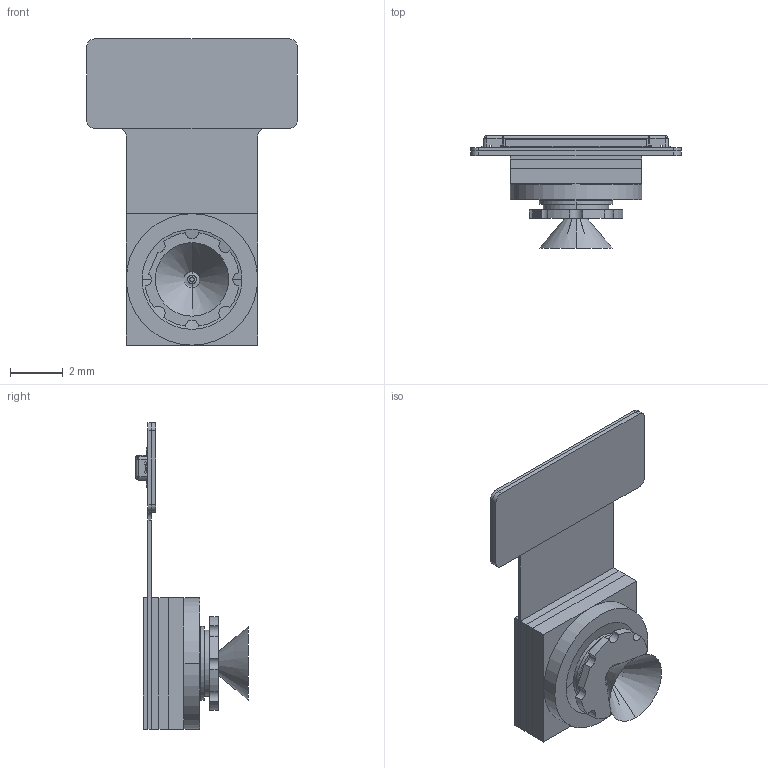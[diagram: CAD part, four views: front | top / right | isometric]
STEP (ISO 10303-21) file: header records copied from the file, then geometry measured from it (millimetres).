
FILE_DESCRIPTION (( 'STEP AP214' ), '1' );
FILE_NAME ('¸ÄCV1222-D(VD55G0) FOV79.8¡ã 3D.STEP', '2024-07-13T02:21:56', ( '' ), ( '' ), 'SwSTEP 2.0', 'SolidWorks 2016', '' );
FILE_SCHEMA (( 'AUTOMOTIVE_DESIGN' ));
Length unit declared in the file: millimetre
Products named in the file (9): STEEL-1; STEEL-2; VD55G0 231228; FPC_1; 1L4A026A1-H; 改CV1222-D(VD55G0) FOV79.8°  3D; BM28B0_6-30DP_1; FPC-ASM_ASM; PLCC55122802
Assembly tree (8 placements, depth 3):
  改CV1222-D(VD55G0) FOV79.8°  3D
    FPC-ASM_ASM
      FPC_1
      STEEL-1
      STEEL-2
    PLCC55122802
    BM28B0_6-30DP_1
    1L4A026A1-H
    VD55G0 231228
Bounding box: 8 x 4.28 x 11.65 mm (x, y, z)
Volume: 51.3 mm3; surface area: 572.2 mm2
Topology: 45 solids, 47 shells, 1867 faces, 4608 edges, 3014 vertices
Faces by surface type: plane 1635, cylinder 165, cone 50, bspline 17
Entity records: 77096 total; most frequent: CARTESIAN_POINT 11377, ORIENTED_EDGE 9198, DIRECTION 8660, EDGE_CURVE 4600, VECTOR 4170, LINE 4170, VERTEX_POINT 3014, AXIS2_PLACEMENT_3D 2245
